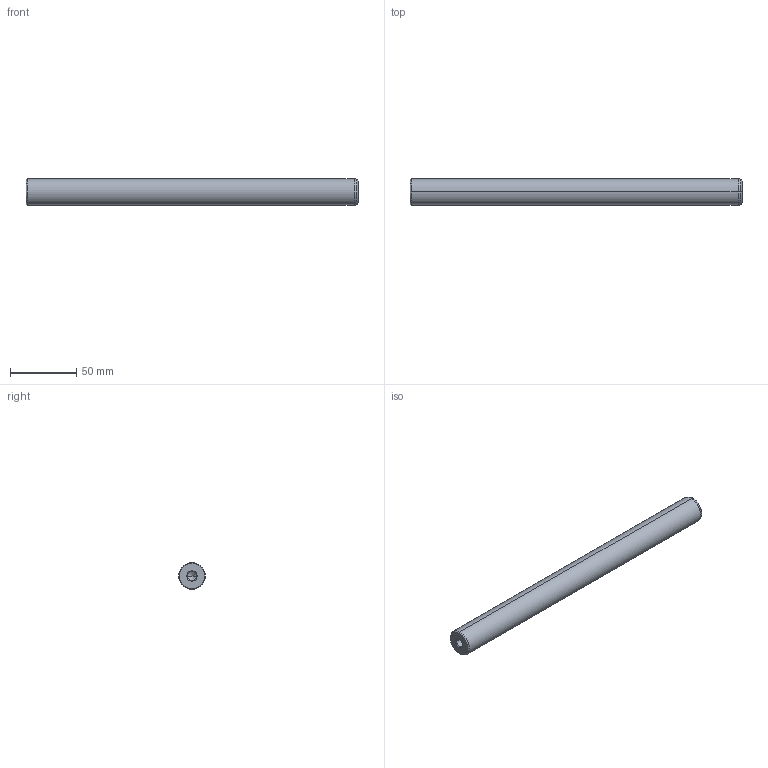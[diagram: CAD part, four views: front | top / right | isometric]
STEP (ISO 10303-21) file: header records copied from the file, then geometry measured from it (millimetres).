
FILE_DESCRIPTION(('CATIA V5 STEP Exchange'),'2;1');
FILE_NAME('C:\Users\Utente\Desktop\IO LAVORO\3D X SITO CF\X SITO\720\720-20x250.stp','2021-01-01T12:55:36+00:00',('none'),('none'),'CATIA Version 5 Release 20 GA (IN-10)','CATIA V5 STEP AP203','none');
FILE_SCHEMA(('CONFIG_CONTROL_DESIGN'));
Length unit declared in the file: millimetre
Products named in the file (1): 720-20x250
Bounding box: 250 x 20 x 20 mm (x, y, z)
Volume: 76702.7 mm3; surface area: 17229.5 mm2
Topology: 1 solids, 1 shells, 22 faces, 56 edges, 34 vertices
Faces by surface type: cone 12, cylinder 6, plane 2, torus 2
Entity records: 749 total; most frequent: CARTESIAN_POINT 210, ORIENTED_EDGE 104, DIRECTION 89, EDGE_CURVE 52, AXIS2_PLACEMENT_3D 50, VERTEX_POINT 34, CIRCLE 27, EDGE_LOOP 24
